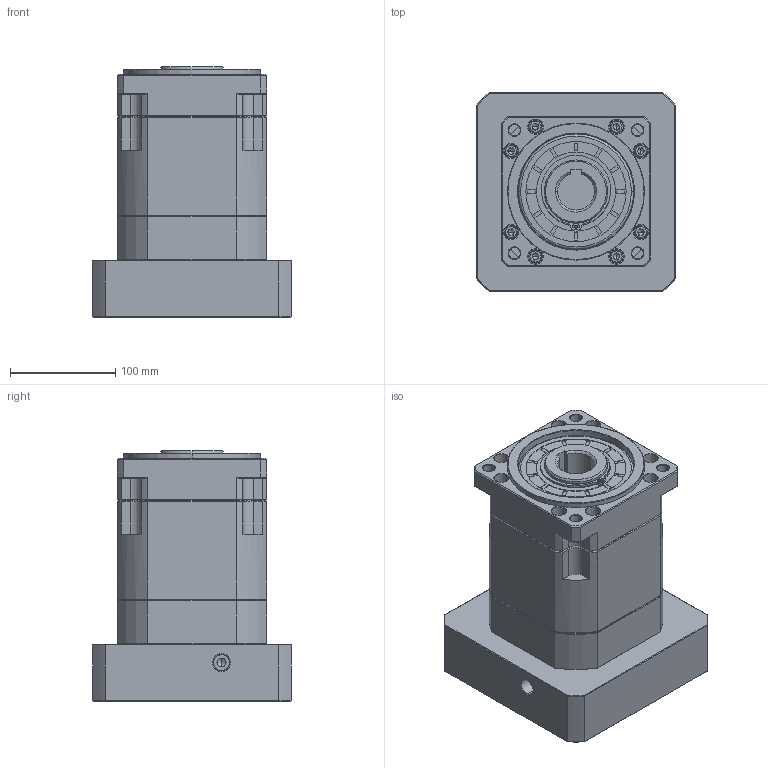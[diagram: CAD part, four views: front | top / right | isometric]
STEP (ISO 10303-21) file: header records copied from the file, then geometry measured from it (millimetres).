
FILE_DESCRIPTION (( 'STEP AP214' ), '1' );
FILE_NAME ('ZB142A-K35-L2-38-180-215-M12.step', '2023-03-17T10:50:07', ( '' ), ( '' ), 'SwSTEP 2.0', 'SolidWorks 2016', '' );
FILE_SCHEMA (( 'AUTOMOTIVE_DESIGN' ));
Length unit declared in the file: millimetre
Products named in the file (1): ZB142A-K35-L2-38-180-215-M12
Bounding box: 188 x 188 x 237.2 mm (x, y, z)
Volume: 4583344.2 mm3; surface area: 346277.4 mm2
Topology: 6 solids, 6 shells, 1965 faces, 5207 edges, 3340 vertices
Faces by surface type: plane 916, cylinder 377, cone 346, bspline 306, torus 20
Entity records: 107151 total; most frequent: CARTESIAN_POINT 39048, ORIENTED_EDGE 10358, DIRECTION 8584, EDGE_CURVE 5179, VERTEX_POINT 3340, VECTOR 3206, LINE 3206, AXIS2_PLACEMENT_3D 2689
